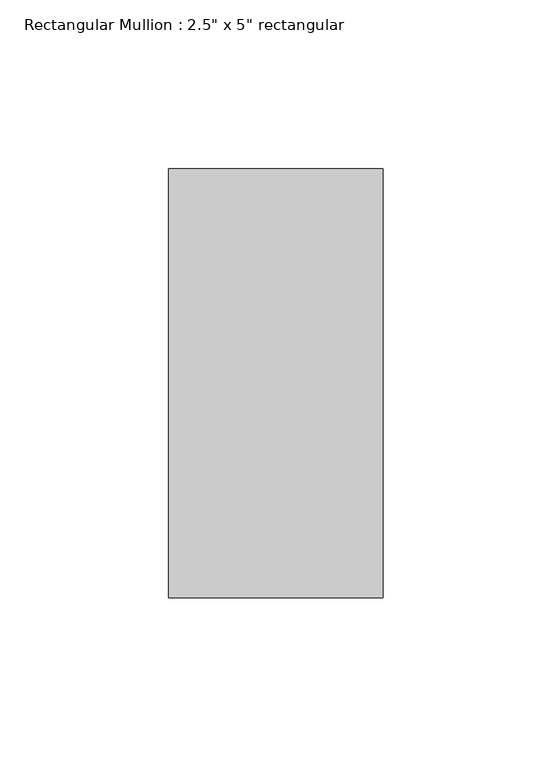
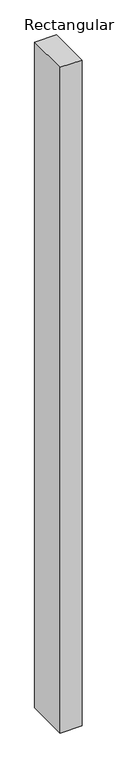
"""IFC4 building model written with IfcOpenShell, lengths in millimetres: member geometry."""

from ifc_helpers import new_model, si_unit, frame, origin, place, context, project, spatial, polyline, outline, extrude, source, transform, mapped, element, save


def member_ae053e04(model_context):
    return source(origin(), model_context, "Body", "SweptSolid", [
        extrude(outline(polyline([(31.75, 63.5), (31.75, -63.5), (-31.75, -63.5), (-31.75, 63.5), (31.75, 63.5)])), frame((0.0, 0.0, -2029.9732144), z_axis=(0.0, 0.0, 1.0), x_axis=(1.0, 0.0, 0.0)), (0.0, 0.0, 1.0), 2029.9732144),
    ])


if __name__ == "__main__":
    model = new_model("IFC4")
    model_context = context("Model", 3, world=origin())
    ifc_project = project(units=[si_unit("LENGTHUNIT", "METRE", prefix="MILLI")], contexts=[model_context])
    site = spatial("IfcSite", under=ifc_project)
    building = spatial("IfcBuilding", under=site)
    placement = place(None, origin())
    member_shape = member_ae053e04(model_context)
    element("IfcMember", 1, ObjectType="Rectangular Mullion : 2.5\" x 5\" rectangular", at=placement, inside=building, context=model_context, shape_type="MappedRepresentation", body=[
        mapped(member_shape, transform((0.0, 0.0, 0.0), x_axis=(1.0, 0.0, 0.0), y_axis=(0.0, 1.0, 0.0), z_axis=(0.0, 0.0, 1.0))),
    ])
    save(model, "model.ifc")
